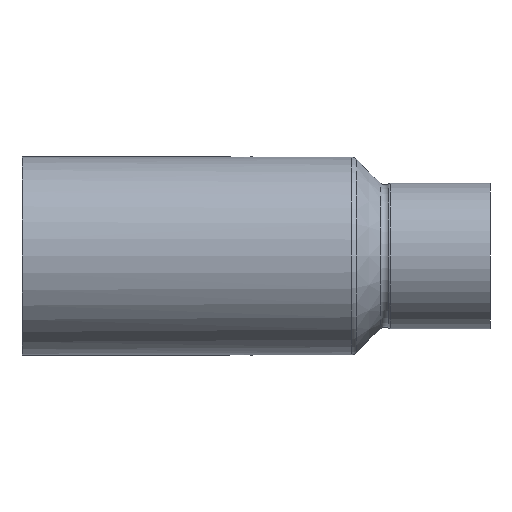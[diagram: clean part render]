
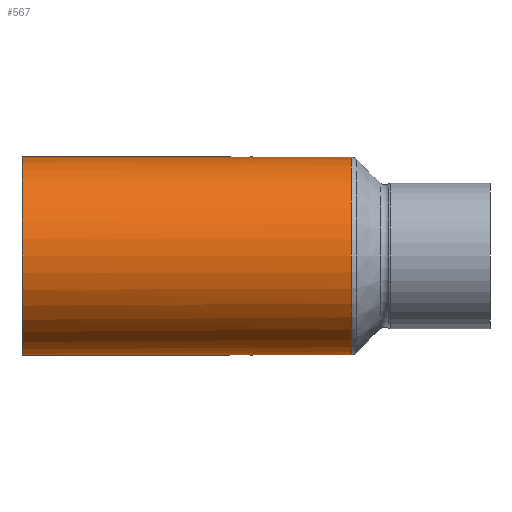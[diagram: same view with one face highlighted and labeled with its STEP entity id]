
A CAD part, front view. The second image highlights one B-rep face of the part: STEP entity #567.
In plain terms, the highlighted cylindrical face has radius 12.075 mm (diameter 24.15 mm), a full revolution.
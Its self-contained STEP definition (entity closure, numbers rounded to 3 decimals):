
#43=B_SPLINE_CURVE_WITH_KNOTS('',3,(#1074,#1075,#1076,#1077,#1078,#1079,
#1080,#1081,#1082,#1083,#1084,#1085,#1086,#1087,#1088,#1089),
 .UNSPECIFIED.,.F.,.F.,(4,3,3,3,3,4),(-7.917,-7.775,
-7.634,-7.351,-6.786,-6.728),
 .UNSPECIFIED.);
#44=B_SPLINE_CURVE_WITH_KNOTS('',3,(#1091,#1092,#1093,#1094,#1095,#1096,
#1097,#1098),.UNSPECIFIED.,.F.,.F.,(4,1,1,1,1,4),(-1.132,-1.131,
-0.565,-0.283,-0.141,0.),
 .UNSPECIFIED.);
#45=B_SPLINE_CURVE_WITH_KNOTS('',3,(#1100,#1101,#1102,#1103,#1104,#1105,
#1106,#1107),.UNSPECIFIED.,.F.,.F.,(4,1,1,1,1,4),(-2.826,-2.639,
-2.262,-1.885,-1.508,-1.132),
 .UNSPECIFIED.);
#46=B_SPLINE_CURVE_WITH_KNOTS('',3,(#1108,#1109,#1110,#1111,#1112,#1113,
#1114,#1115,#1116,#1117,#1118,#1119,#1120,#1121,#1122,#1123,#1124,#1125,
#1126,#1127,#1128,#1129,#1130,#1131,#1132,#1133,#1134,#1135),
 .UNSPECIFIED.,.F.,.F.,(4,3,3,3,3,3,3,3,3,4),(-5.147,-4.901,
-4.524,-4.335,-4.147,-3.958,
-3.77,-3.581,-3.393,-2.826),
 .UNSPECIFIED.);
#69=LINE('',#1137,#79);
#79=VECTOR('',#770,12.075);
#90=CYLINDRICAL_SURFACE('',#648,12.075);
#109=FACE_OUTER_BOUND('',#144,.T.);
#144=EDGE_LOOP('',(#415,#416,#417,#418,#419,#420,#421,#422,#423));
#190=CIRCLE('',#642,12.075);
#191=CIRCLE('',#643,12.075);
#195=CIRCLE('',#649,12.075);
#235=VERTEX_POINT('',#944);
#239=VERTEX_POINT('',#951);
#240=VERTEX_POINT('',#953);
#245=VERTEX_POINT('',#1073);
#246=VERTEX_POINT('',#1090);
#247=VERTEX_POINT('',#1099);
#248=VERTEX_POINT('',#1136);
#301=EDGE_CURVE('',#239,#240,#190,.T.);
#302=EDGE_CURVE('',#240,#235,#191,.T.);
#312=EDGE_CURVE('',#245,#239,#43,.T.);
#313=EDGE_CURVE('',#246,#245,#44,.T.);
#314=EDGE_CURVE('',#247,#246,#45,.T.);
#315=EDGE_CURVE('',#235,#247,#46,.T.);
#316=EDGE_CURVE('',#240,#248,#69,.T.);
#317=EDGE_CURVE('',#248,#248,#195,.T.);
#415=ORIENTED_EDGE('',*,*,#301,.F.);
#416=ORIENTED_EDGE('',*,*,#312,.F.);
#417=ORIENTED_EDGE('',*,*,#313,.F.);
#418=ORIENTED_EDGE('',*,*,#314,.F.);
#419=ORIENTED_EDGE('',*,*,#315,.F.);
#420=ORIENTED_EDGE('',*,*,#302,.F.);
#421=ORIENTED_EDGE('',*,*,#316,.T.);
#422=ORIENTED_EDGE('',*,*,#317,.T.);
#423=ORIENTED_EDGE('',*,*,#316,.F.);
#567=ADVANCED_FACE('',(#109),#90,.T.);
#642=AXIS2_PLACEMENT_3D('',#954,#756,#757);
#643=AXIS2_PLACEMENT_3D('',#955,#758,#759);
#648=AXIS2_PLACEMENT_3D('',#1072,#768,#769);
#649=AXIS2_PLACEMENT_3D('',#1138,#771,#772);
#756=DIRECTION('center_axis',(1.,0.,0.));
#757=DIRECTION('ref_axis',(0.,-1.,0.));
#758=DIRECTION('center_axis',(1.,0.,0.));
#759=DIRECTION('ref_axis',(0.,-1.,0.));
#768=DIRECTION('center_axis',(1.,0.,0.));
#769=DIRECTION('ref_axis',(0.,1.,0.));
#770=DIRECTION('',(-1.,0.,0.));
#771=DIRECTION('center_axis',(1.,0.,0.));
#772=DIRECTION('ref_axis',(0.,1.,0.));
#944=CARTESIAN_POINT('',(12.084,9.715,-7.171));
#951=CARTESIAN_POINT('',(12.084,9.716,7.17));
#953=CARTESIAN_POINT('',(12.086,-12.075,0.));
#954=CARTESIAN_POINT('Origin',(12.086,0.,0.));
#955=CARTESIAN_POINT('Origin',(12.086,0.,0.));
#1072=CARTESIAN_POINT('Origin',(0.5,0.,0.));
#1073=CARTESIAN_POINT('',(0.,3.462,11.568));
#1074=CARTESIAN_POINT('Ctrl Pts',(0.,3.462,
11.568));
#1075=CARTESIAN_POINT('Ctrl Pts',(0.646,3.462,11.568));
#1076=CARTESIAN_POINT('Ctrl Pts',(1.286,3.572,11.536));
#1077=CARTESIAN_POINT('Ctrl Pts',(1.889,3.743,11.48));
#1078=CARTESIAN_POINT('Ctrl Pts',(2.492,3.913,11.425));
#1079=CARTESIAN_POINT('Ctrl Pts',(3.058,4.144,11.345));
#1080=CARTESIAN_POINT('Ctrl Pts',(3.6,4.395,11.247));
#1081=CARTESIAN_POINT('Ctrl Pts',(4.683,4.896,11.052));
#1082=CARTESIAN_POINT('Ctrl Pts',(5.67,5.474,10.783));
#1083=CARTESIAN_POINT('Ctrl Pts',(6.613,6.057,10.446));
#1084=CARTESIAN_POINT('Ctrl Pts',(8.499,7.222,9.772));
#1085=CARTESIAN_POINT('Ctrl Pts',(10.206,8.401,8.822));
#1086=CARTESIAN_POINT('Ctrl Pts',(11.653,9.414,7.562));
#1087=CARTESIAN_POINT('Ctrl Pts',(11.8,9.517,7.434));
#1088=CARTESIAN_POINT('Ctrl Pts',(11.943,9.617,7.304));
#1089=CARTESIAN_POINT('Ctrl Pts',(12.084,9.716,7.17));
#1090=CARTESIAN_POINT('',(-11.661,9.42,7.554));
#1091=CARTESIAN_POINT('Ctrl Pts',(-11.661,9.42,7.554));
#1092=CARTESIAN_POINT('Ctrl Pts',(-11.658,9.417,7.557));
#1093=CARTESIAN_POINT('Ctrl Pts',(-10.203,8.399,8.824));
#1094=CARTESIAN_POINT('Ctrl Pts',(-7.636,6.626,10.251));
#1095=CARTESIAN_POINT('Ctrl Pts',(-4.185,4.604,11.186));
#1096=CARTESIAN_POINT('Ctrl Pts',(-1.93,3.683,11.504));
#1097=CARTESIAN_POINT('Ctrl Pts',(-0.646,3.462,11.568));
#1098=CARTESIAN_POINT('Ctrl Pts',(0.,3.462,
11.568));
#1099=CARTESIAN_POINT('',(-11.662,9.418,-7.558));
#1100=CARTESIAN_POINT('Ctrl Pts',(-11.662,9.418,-7.558));
#1101=CARTESIAN_POINT('Ctrl Pts',(-12.137,9.753,-7.141));
#1102=CARTESIAN_POINT('Ctrl Pts',(-13.478,10.707,-5.779));
#1103=CARTESIAN_POINT('Ctrl Pts',(-15.194,11.917,-2.966));
#1104=CARTESIAN_POINT('Ctrl Pts',(-15.639,12.251,1.007));
#1105=CARTESIAN_POINT('Ctrl Pts',(-14.326,11.299,4.755));
#1106=CARTESIAN_POINT('Ctrl Pts',(-12.624,10.094,6.714));
#1107=CARTESIAN_POINT('Ctrl Pts',(-11.661,9.42,7.554));
#1108=CARTESIAN_POINT('Ctrl Pts',(12.084,9.715,-7.172));
#1109=CARTESIAN_POINT('Ctrl Pts',(11.475,9.289,-7.75));
#1110=CARTESIAN_POINT('Ctrl Pts',(10.81,8.826,-8.267));
#1111=CARTESIAN_POINT('Ctrl Pts',(10.106,8.344,-8.728));
#1112=CARTESIAN_POINT('Ctrl Pts',(9.03,7.607,-9.432));
#1113=CARTESIAN_POINT('Ctrl Pts',(7.865,6.823,-10.002));
#1114=CARTESIAN_POINT('Ctrl Pts',(6.606,6.051,-10.45));
#1115=CARTESIAN_POINT('Ctrl Pts',(5.976,5.665,-10.674));
#1116=CARTESIAN_POINT('Ctrl Pts',(5.323,5.282,-10.867));
#1117=CARTESIAN_POINT('Ctrl Pts',(4.645,4.917,-11.029));
#1118=CARTESIAN_POINT('Ctrl Pts',(3.967,4.552,-11.191));
#1119=CARTESIAN_POINT('Ctrl Pts',(3.263,4.206,-11.322));
#1120=CARTESIAN_POINT('Ctrl Pts',(2.485,3.934,-11.417));
#1121=CARTESIAN_POINT('Ctrl Pts',(1.706,3.661,-11.511));
#1122=CARTESIAN_POINT('Ctrl Pts',(0.853,3.461,-11.568));
#1123=CARTESIAN_POINT('Ctrl Pts',(0.,3.461,
-11.568));
#1124=CARTESIAN_POINT('Ctrl Pts',(-0.852,3.461,-11.568));
#1125=CARTESIAN_POINT('Ctrl Pts',(-1.705,3.66,-11.511));
#1126=CARTESIAN_POINT('Ctrl Pts',(-2.485,3.933,-11.417));
#1127=CARTESIAN_POINT('Ctrl Pts',(-3.265,4.206,-11.322));
#1128=CARTESIAN_POINT('Ctrl Pts',(-3.972,4.552,-11.191));
#1129=CARTESIAN_POINT('Ctrl Pts',(-4.649,4.917,-11.028));
#1130=CARTESIAN_POINT('Ctrl Pts',(-5.327,5.283,-10.866));
#1131=CARTESIAN_POINT('Ctrl Pts',(-5.976,5.667,-10.672));
#1132=CARTESIAN_POINT('Ctrl Pts',(-6.605,6.054,-10.448));
#1133=CARTESIAN_POINT('Ctrl Pts',(-8.498,7.218,-9.773));
#1134=CARTESIAN_POINT('Ctrl Pts',(-10.22,8.403,-8.823));
#1135=CARTESIAN_POINT('Ctrl Pts',(-11.662,9.418,-7.558));
#1136=CARTESIAN_POINT('',(-28.,-12.075,0.));
#1137=CARTESIAN_POINT('',(0.5,-12.075,0.));
#1138=CARTESIAN_POINT('Origin',(-28.,0.,0.));
